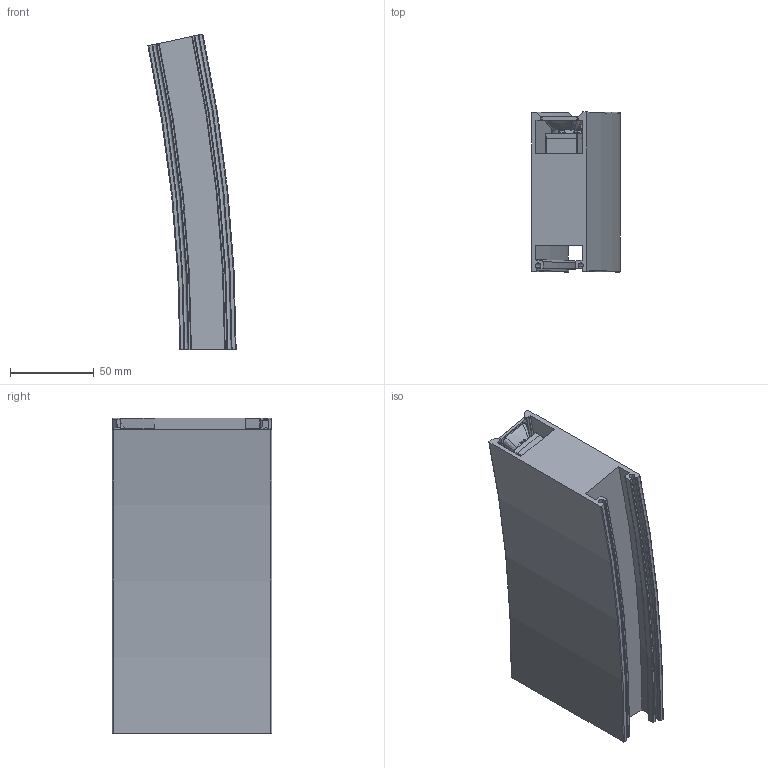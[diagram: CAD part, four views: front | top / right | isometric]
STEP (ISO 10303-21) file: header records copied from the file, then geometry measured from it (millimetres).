
FILE_DESCRIPTION(/* description */ (''),/* implementation_level */ '2;1');
FILE_NAME(/* name */ 'Evelo S R900 Optics Assembly.stp',/* time_stamp */ '2024-09-20T17:09:01+10:00',/* author */ ('Mlight Projects'),/* organization */ (''),/* preprocessor_version */ 'ST-DEVELOPER v20',/* originating_system */ 'Autodesk Inventor 2024',/* authorisation */ '');
FILE_SCHEMA (('AUTOMOTIVE_DESIGN { 1 0 10303 214 3 1 1 }'));
Length unit declared in the file: millimetre
Products named in the file (3): Evelo S R900 Optics Assembly; Body R200; Optics R900
Assembly tree (2 placements, depth 2):
  Evelo S R900 Optics Assembly
    Body R200
    Optics R900
Bounding box: 52.66 x 95.1 x 188.33 mm (x, y, z)
Volume: 426455.6 mm3; surface area: 111896.9 mm2
Topology: 4 solids, 4 shells, 1549 faces, 4173 edges, 2699 vertices
Faces by surface type: bspline 775, plane 401, cylinder 176, cone 160, torus 37
Full cylindrical faces by diameter (mm): 3.5 x3, 10.5 x3, 13.374 x6
Entity records: 74140 total; most frequent: CARTESIAN_POINT 38031, ORIENTED_EDGE 8346, DIRECTION 5824, EDGE_CURVE 4173, VERTEX_POINT 2699, AXIS2_PLACEMENT_3D 2355, EDGE_LOOP 1674, FACE_OUTER_BOUND 1549
